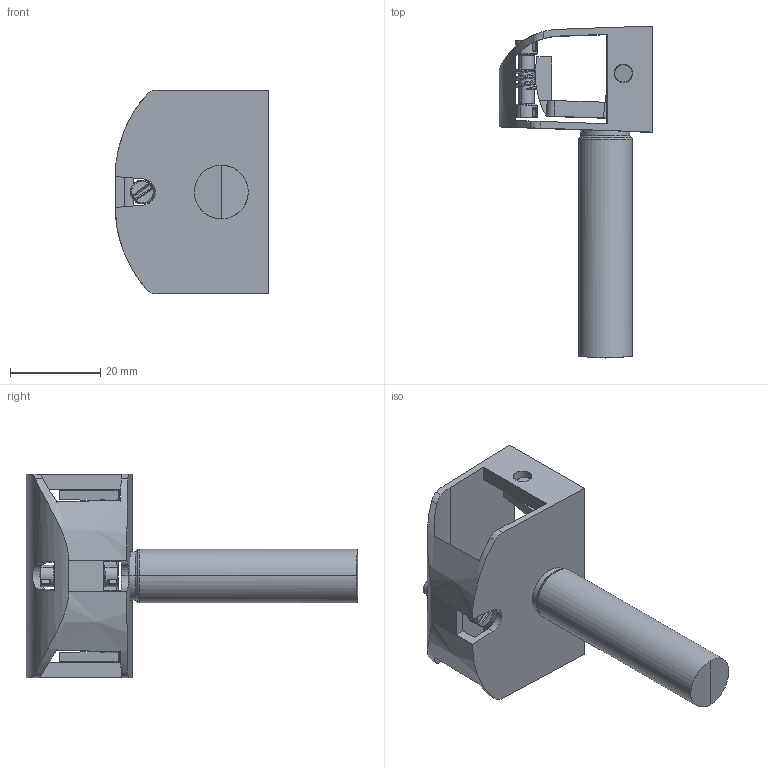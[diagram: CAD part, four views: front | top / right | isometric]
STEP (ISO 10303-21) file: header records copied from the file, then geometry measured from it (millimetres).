
FILE_DESCRIPTION (( 'STEP AP214' ), '1' );
FILE_NAME ('067RCB1SEU001.STEP', '2024-09-23T10:51:30', ( '' ), ( '' ), 'SwSTEP 2.0', 'SolidWorks 2023', '' );
FILE_SCHEMA (( 'AUTOMOTIVE_DESIGN' ));
Length unit declared in the file: millimetre
Products named in the file (7): 067RCB1SES003; 067RCB1SEU001; 067RCB1SEU001(2); 067RCB1SEU001(1); 4DIN7985M0306M; 067RCB1SES002; 067RCB1SES001
Assembly tree (7 placements, depth 4):
  067RCB1SEU001
    067RCB1SEU001(2)
      067RCB1SEU001(1)
        067RCB1SES001
        067RCB1SES002
        067RCB1SES003
        4DIN7985M0306M  x2
Bounding box: 34 x 73.5 x 45 mm (x, y, z)
Volume: 14214.9 mm3; surface area: 13192.7 mm2
Topology: 5 solids, 5 shells, 501 faces, 1268 edges, 774 vertices
Faces by surface type: plane 147, bspline 111, cone 110, cylinder 109, sphere 16, torus 8
Entity records: 17678 total; most frequent: CARTESIAN_POINT 9046, ORIENTED_EDGE 2004, DIRECTION 1483, EDGE_CURVE 1002, VERTEX_POINT 612, AXIS2_PLACEMENT_3D 559, EDGE_LOOP 414, FACE_OUTER_BOUND 398
